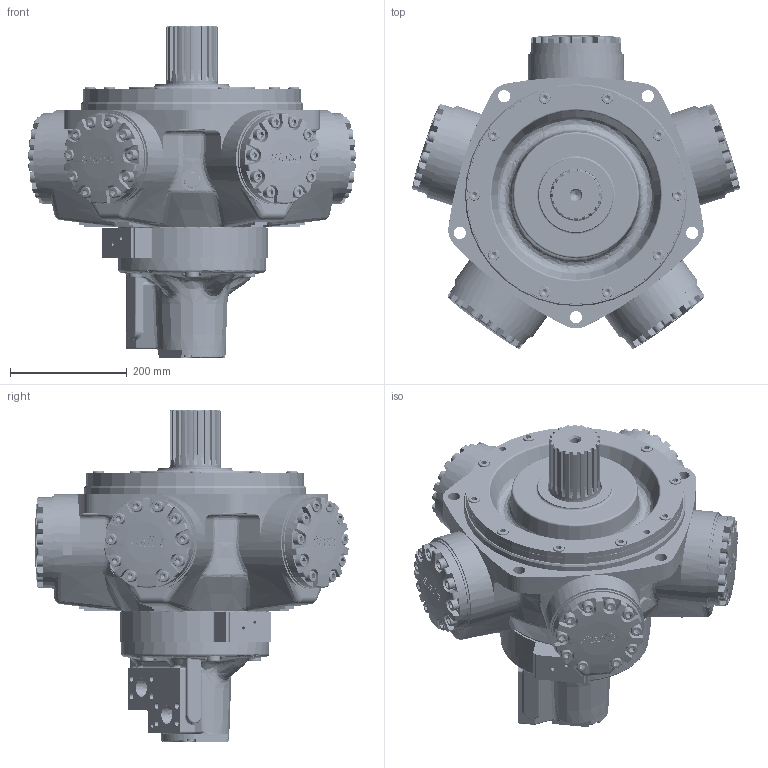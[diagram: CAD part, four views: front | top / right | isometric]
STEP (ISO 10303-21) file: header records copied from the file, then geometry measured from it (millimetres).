
FILE_DESCRIPTION((''),'2;1');
FILE_NAME('I:\3D Step files\APPROVED 3D MODELS FOR WEB\Staffa\HMC125 S F3 X 70.stp','2009-10-21T11:49:21',('mnorman'),(''),'Autodesk Inventor 2010','Autodesk Inventor 2010','');
FILE_SCHEMA(('AUTOMOTIVE_DESIGN { 1 0 10303 214 1 1 1 1 }'));
Length unit declared in the file: millimetre
Products named in the file (1): Part1
Bounding box: 562.18 x 537.45 x 569.42 mm (x, y, z)
Volume: 25663319.3 mm3; surface area: 2178287.5 mm2
Topology: 80 solids, 80 shells, 4078 faces, 9509 edges, 5917 vertices
Faces by surface type: plane 1397, bspline 1379, cylinder 788, cone 311, torus 178, sphere 25
Full cylindrical faces by diameter (mm): 6.2 x1, 7.938 x5, 11.328 x25, 11.913 x4, 12.7 x61, 13.5 x25, 15.875 x5, 16.272 x5, 16.51 x1, 16.7 x5, 19.05 x61, 20.6 x25, 21 x5, 22.2 x5, 23.825 x5, 25.4 x5, 27.68 x5, 28.575 x5, 28.677 x5, 31.75 x2, 38.1 x3, 38.176 x5, 38.18 x5, 65.1 x1, 68.58 x1, 71.952 x1, 76.06 x2, 76.205 x1, 87.889 x1, 88.837 x1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
Entity records: 161146 total; most frequent: CARTESIAN_POINT 77844, ORIENTED_EDGE 16646, DIRECTION 13469, EDGE_CURVE 8323, VERTEX_POINT 5643, EDGE_LOOP 5360, AXIS2_PLACEMENT_3D 5202, STYLED_ITEM 4087
